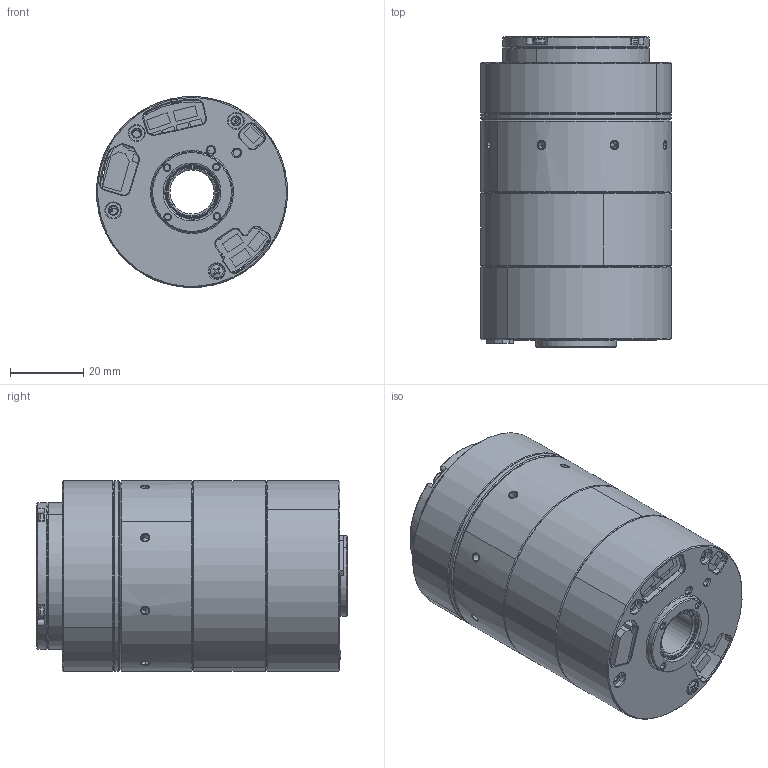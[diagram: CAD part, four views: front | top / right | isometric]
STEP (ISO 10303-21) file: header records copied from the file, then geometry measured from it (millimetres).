
FILE_DESCRIPTION (( 'STEP AP214' ), '1' );
FILE_NAME ('CRA-RI40-52-PRO-XX-B-2E-EC.STEP', '2024-08-26T05:53:05', ( '' ), ( '' ), 'SwSTEP 2.0', 'SolidWorks 2021', '' );
FILE_SCHEMA (( 'AUTOMOTIVE_DESIGN' ));
Length unit declared in the file: millimetre
Products named in the file (1): CRA-RI40-52-PRO-XX-B-2E-EC
Bounding box: 51.95 x 84.5 x 51.95 mm (x, y, z)
Surface area: 33925.7 mm2 (no closed solid volume)
Topology: 0 solids, 63 shells, 858 faces, 2712 edges, 1881 vertices
Faces by surface type: plane 335, cylinder 282, cone 212, torus 24, sphere 4, bspline 1
Entity records: 40507 total; most frequent: CARTESIAN_POINT 6582, DIRECTION 5498, ORIENTED_EDGE 4409, EDGE_CURVE 2712, AXIS2_PLACEMENT_3D 2028, VERTEX_POINT 1881, LINE 1442, VECTOR 1442
